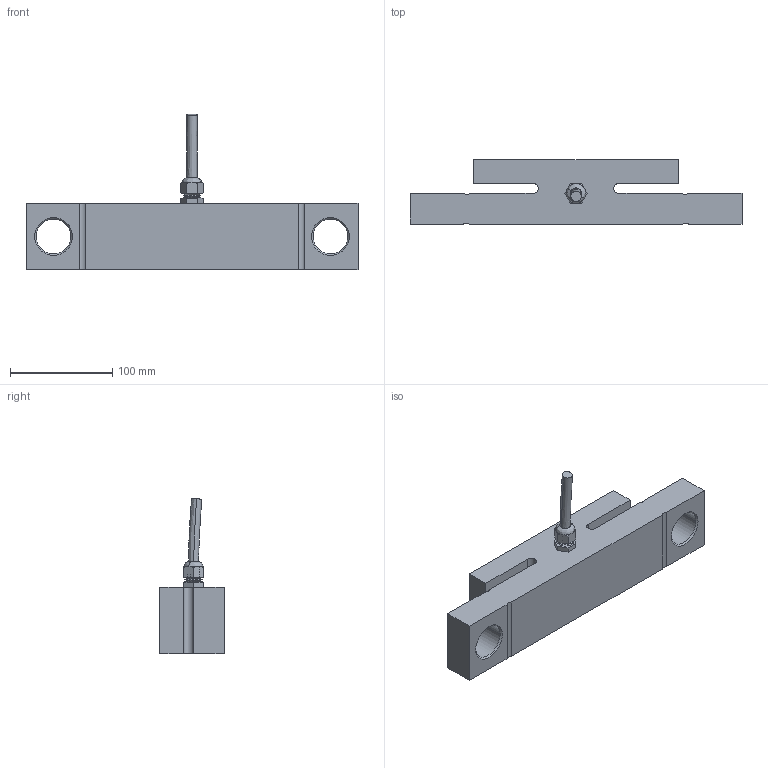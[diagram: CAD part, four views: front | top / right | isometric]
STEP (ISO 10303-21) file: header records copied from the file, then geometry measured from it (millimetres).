
FILE_DESCRIPTION (( 'STEP AP214' ), '1' );
FILE_NAME ('SBT-10000kg assembly outline.STEP', '2017-08-23T06:09:49', ( '' ), ( '' ), 'SwSTEP 2.0', 'SolidWorks 2017', '' );
FILE_SCHEMA (( 'AUTOMOTIVE_DESIGN' ));
Length unit declared in the file: millimetre
Products named in the file (5): SBT-10000kg assembly outline; SBT-10000_2; cable gland_2; PG9Nozzle_2; Part2^SBT-10000kg_1
Assembly tree (4 placements, depth 2):
  SBT-10000kg assembly outline
    SBT-10000_2
    cable gland_2
    PG9Nozzle_2
    Part2^SBT-10000kg_1
Bounding box: 325 x 63 x 152.18 mm (x, y, z)
Volume: 912719.3 mm3; surface area: 110578.7 mm2
Topology: 4 solids, 4 shells, 250 faces, 626 edges, 385 vertices
Faces by surface type: cone 107, plane 98, cylinder 39, bspline 6
Entity records: 10560 total; most frequent: CARTESIAN_POINT 1570, DIRECTION 1332, ORIENTED_EDGE 1248, EDGE_CURVE 624, AXIS2_PLACEMENT_3D 515, VERTEX_POINT 385, VECTOR 302, LINE 302
